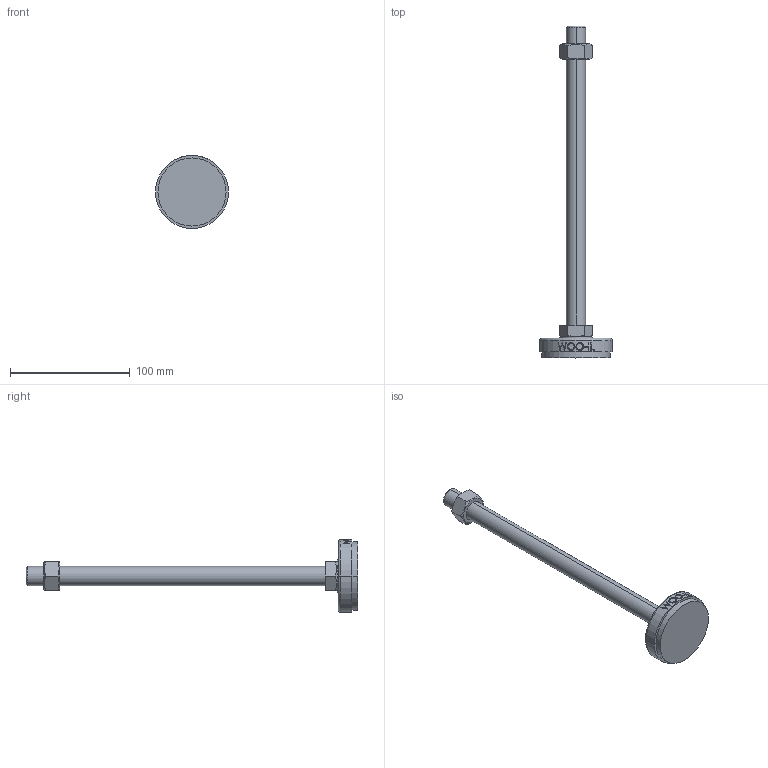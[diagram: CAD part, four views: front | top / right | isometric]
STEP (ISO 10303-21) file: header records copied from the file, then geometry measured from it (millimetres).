
FILE_DESCRIPTION (( 'STEP AP214' ), '1' );
FILE_NAME ('NS61-M16-250.step', '2021-01-11T05:46:03', ( '' ), ( '' ), 'SwSTEP 2.0', 'SolidWorks 2019', '' );
FILE_SCHEMA (( 'AUTOMOTIVE_DESIGN' ));
Length unit declared in the file: millimetre
Products named in the file (2): NS61-M16-250
Bounding box: 61 x 277.5 x 61 mm (x, y, z)
Volume: 105777 mm3; surface area: 25420.8 mm2
Topology: 3 solids, 3 shells, 96 faces, 223 edges, 144 vertices
Faces by surface type: plane 48, cylinder 18, bspline 16, cone 12, torus 2
Entity records: 4252 total; most frequent: CARTESIAN_POINT 2127, ORIENTED_EDGE 446, DIRECTION 381, EDGE_CURVE 223, VERTEX_POINT 144, AXIS2_PLACEMENT_3D 142, EDGE_LOOP 109, LINE 97
